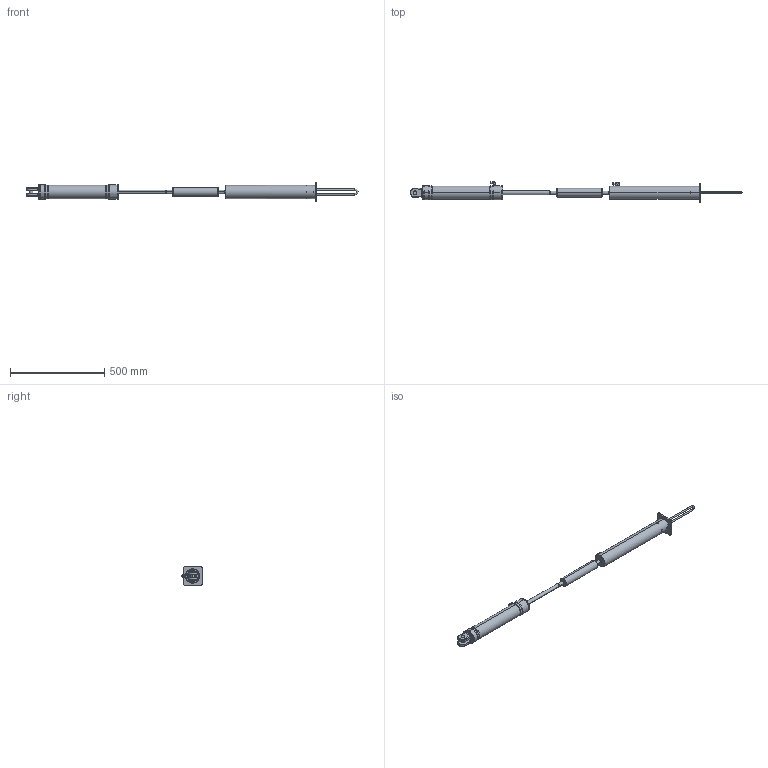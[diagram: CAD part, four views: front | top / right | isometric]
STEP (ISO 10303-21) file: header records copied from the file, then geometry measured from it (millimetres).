
FILE_DESCRIPTION (( 'STEP AP203' ), '1' );
FILE_NAME ('PT_055_S_0250.STEP', '2018-06-01T14:51:30', ( 'utente' ), ( 'Hewlett-Packard Company' ), 'SwSTEP 2.0', 'SolidWorks 2015', '' );
FILE_SCHEMA (( 'CONFIG_CONTROL_DESIGN' ));
Length unit declared in the file: millimetre
Products named in the file (1): PT_055_S_0250
Bounding box: 1765.1 x 107.56 x 100 mm (x, y, z)
Volume: 4267581.9 mm3; surface area: 321501.8 mm2
Topology: 1 solids, 1 shells, 300 faces, 672 edges, 408 vertices
Faces by surface type: plane 113, cylinder 99, torus 44, cone 44
Entity records: 8937 total; most frequent: CARTESIAN_POINT 2116, DIRECTION 1496, ORIENTED_EDGE 1344, EDGE_CURVE 672, AXIS2_PLACEMENT_3D 606, VERTEX_POINT 408, EDGE_LOOP 338, CIRCLE 305
